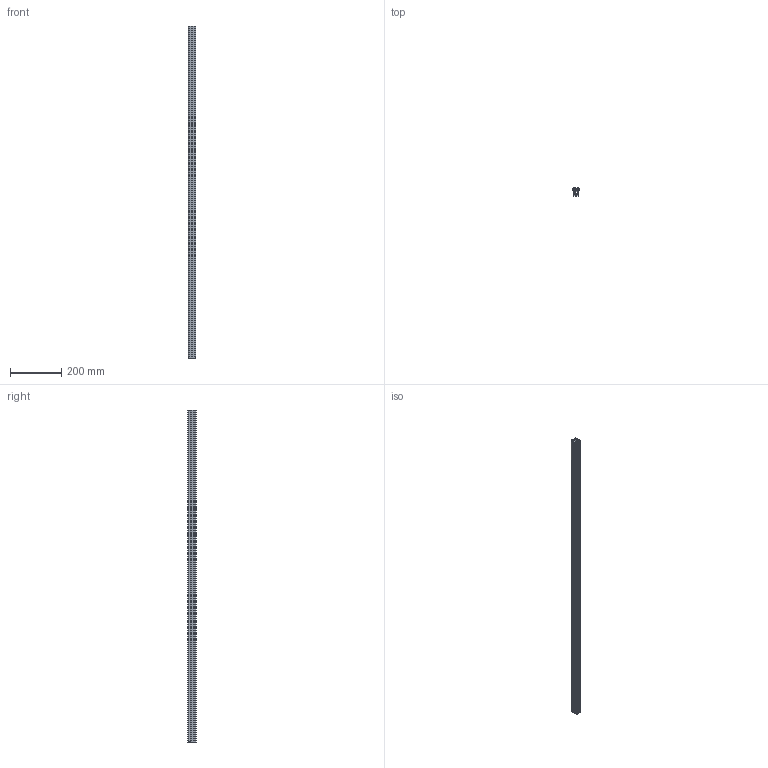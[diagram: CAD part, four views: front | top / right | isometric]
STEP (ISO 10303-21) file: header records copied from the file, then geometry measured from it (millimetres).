
FILE_DESCRIPTION (( 'STEP AP203' ), '1' );
FILE_NAME ('MLF 2_-_MLF 2 1298 mm lang.step', '2005-06-03T08:35:01', ( ' ' ), ( ' ' ), 'SwSTEP 2.0', 'SolidWorks 2004231', '' );
FILE_SCHEMA (( 'CONFIG_CONTROL_DESIGN' ));
Length unit declared in the file: millimetre
Products named in the file (1): MLF 2_-_MLF 2  1298 mm lang
Bounding box: 30 x 32.5 x 1298 mm (x, y, z)
Volume: 729481.8 mm3; surface area: 324211.7 mm2
Topology: 1 solids, 1 shells, 112 faces, 342 edges, 224 vertices
Faces by surface type: plane 90, cylinder 22
Entity records: 3875 total; most frequent: ORIENTED_EDGE 684, CARTESIAN_POINT 679, DIRECTION 612, EDGE_CURVE 342, VECTOR 298, LINE 298, VERTEX_POINT 224, AXIS2_PLACEMENT_3D 157
